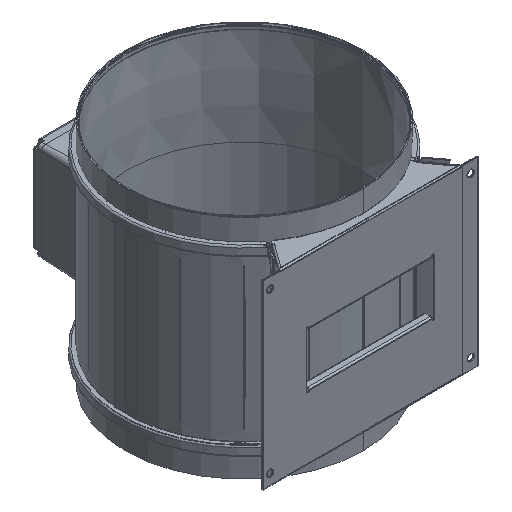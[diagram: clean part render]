
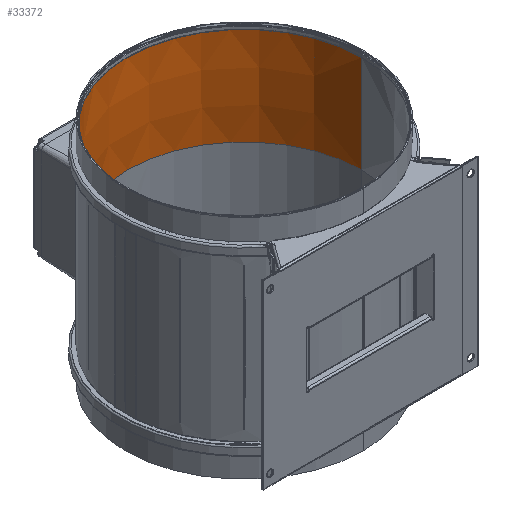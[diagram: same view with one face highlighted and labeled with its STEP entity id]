
A CAD part, isometric view. The second image highlights one B-rep face of the part: STEP entity #33372.
In plain terms, the highlighted conical face has half-angle 0.224 degrees and reference radius 154.4 mm.
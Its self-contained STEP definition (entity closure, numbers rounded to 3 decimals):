
#796 = EDGE_LOOP ( 'NONE', ( #27693, #27677, #27680, #27505 ) ) ;
#2376 = DIRECTION ( 'NONE',  ( 0., 0., 1. ) ) ;
#2486 = CARTESIAN_POINT ( 'NONE',  ( 0., 0., -92.667 ) ) ;
#2488 = DIRECTION ( 'NONE',  ( -1., 0., 0. ) ) ;
#3120 = EDGE_CURVE ( 'NONE', #11905, #13061, #22308, .T. ) ;
#5365 = AXIS2_PLACEMENT_3D ( 'NONE', #17622, #17624, #17625 ) ;
#5583 = DIRECTION ( 'NONE',  ( 0.004, 0., 1. ) ) ;
#5615 = CARTESIAN_POINT ( 'NONE',  ( 154.4, 0., -92.667 ) ) ;
#9958 = CARTESIAN_POINT ( 'NONE',  ( -154.4, 0., -92.667 ) ) ;
#10134 = DIRECTION ( 'NONE',  ( -0.004, 0., 1. ) ) ;
#10713 = CIRCLE ( 'NONE', #24312, 154.399 ) ;
#11905 = VERTEX_POINT ( 'NONE', #14417 ) ;
#13018 = VERTEX_POINT ( 'NONE', #24799 ) ;
#13061 = VERTEX_POINT ( 'NONE', #24776 ) ;
#13150 = VERTEX_POINT ( 'NONE', #24898 ) ;
#14417 = CARTESIAN_POINT ( 'NONE',  ( -153.9, 0., -220.707 ) ) ;
#15188 = CARTESIAN_POINT ( 'NONE',  ( 0., 0., -92.862 ) ) ;
#15202 = DIRECTION ( 'NONE',  ( 0., 0., 1. ) ) ;
#15210 = DIRECTION ( 'NONE',  ( -1., 0., 0. ) ) ;
#17622 = CARTESIAN_POINT ( 'NONE',  ( 0., 0., -220.707 ) ) ;
#17624 = DIRECTION ( 'NONE',  ( 0., 0., 1. ) ) ;
#17625 = DIRECTION ( 'NONE',  ( -1., 0., 0. ) ) ;
#18884 = AXIS2_PLACEMENT_3D ( 'NONE', #2486, #2376, #2488 ) ;
#22134 = EDGE_CURVE ( 'NONE', #13018, #13150, #30240, .T. ) ;
#22297 = VECTOR ( 'NONE', #10134, 1000. ) ;
#22308 = LINE ( 'NONE', #9958, #22297 ) ;
#24312 = AXIS2_PLACEMENT_3D ( 'NONE', #15188, #15202, #15210 ) ;
#24776 = CARTESIAN_POINT ( 'NONE',  ( -154.399, 0., -92.862 ) ) ;
#24799 = CARTESIAN_POINT ( 'NONE',  ( 153.9, 0., -220.707 ) ) ;
#24898 = CARTESIAN_POINT ( 'NONE',  ( 154.399, 0., -92.862 ) ) ;
#27505 = ORIENTED_EDGE ( 'NONE', *, *, #3120, .F. ) ;
#27677 = ORIENTED_EDGE ( 'NONE', *, *, #22134, .T. ) ;
#27680 = ORIENTED_EDGE ( 'NONE', *, *, #31754, .T. ) ;
#27693 = ORIENTED_EDGE ( 'NONE', *, *, #38566, .F. ) ;
#30239 = VECTOR ( 'NONE', #5583, 1000. ) ;
#30240 = LINE ( 'NONE', #5615, #30239 ) ;
#31754 = EDGE_CURVE ( 'NONE', #13150, #13061, #10713, .T. ) ;
#33372 = ADVANCED_FACE ( 'NONE', ( #38764 ), #38778, .F. ) ;
#35222 = CIRCLE ( 'NONE', #5365, 153.9 ) ;
#38566 = EDGE_CURVE ( 'NONE', #13018, #11905, #35222, .T. ) ;
#38764 = FACE_OUTER_BOUND ( 'NONE', #796, .T. ) ;
#38778 = CONICAL_SURFACE ( 'NONE', #18884, 154.4, 0.004 ) ;
